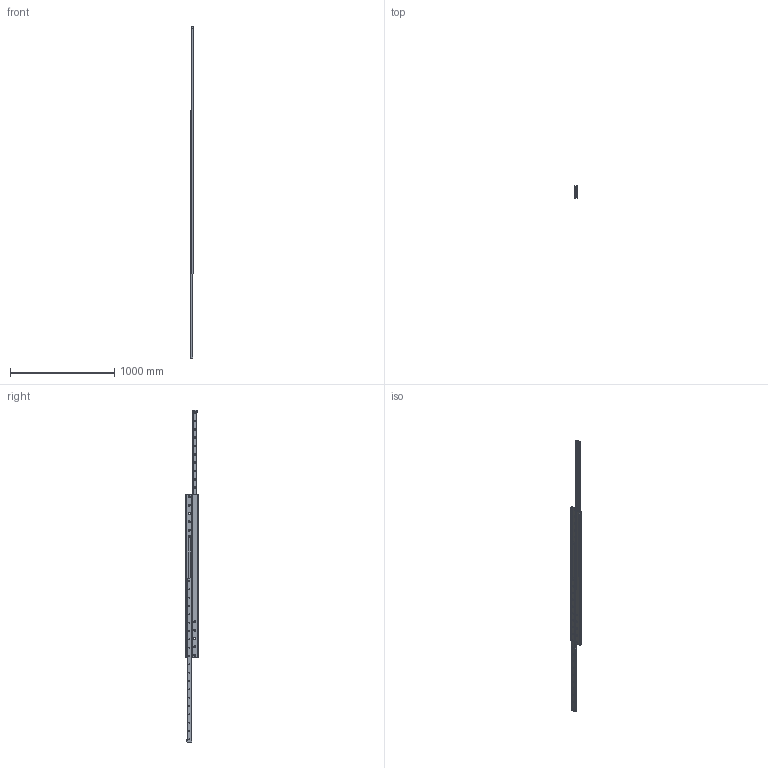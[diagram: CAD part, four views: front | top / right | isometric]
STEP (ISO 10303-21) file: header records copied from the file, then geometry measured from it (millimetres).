
FILE_DESCRIPTION(('STEP AP214'),'1');
FILE_NAME('rail_dss43-1570_01.stp','2017-04-17T03:59:39',('TraceParts'),('TraceParts S.A.'),'Spatial InterOp 3D',' ',' ');
FILE_SCHEMA(('automotive_design'));
Length unit declared in the file: millimetre
Products named in the file (3): rail_dss43-1570_01_1; rail_dss43-1570_01_2; rail_dss43-1570_01_3
Bounding box: 28 x 120 x 3186 mm (x, y, z)
Volume: 2783239 mm3; surface area: 1120076.7 mm2
Topology: 3 solids, 3 shells, 370 faces, 982 edges, 628 vertices
Faces by surface type: cylinder 152, plane 138, cone 80
Entity records: 11771 total; most frequent: DIRECTION 2128, CARTESIAN_POINT 1983, ORIENTED_EDGE 1964, EDGE_CURVE 982, AXIS2_PLACEMENT_3D 773, VERTEX_POINT 628, LINE 582, VECTOR 582
